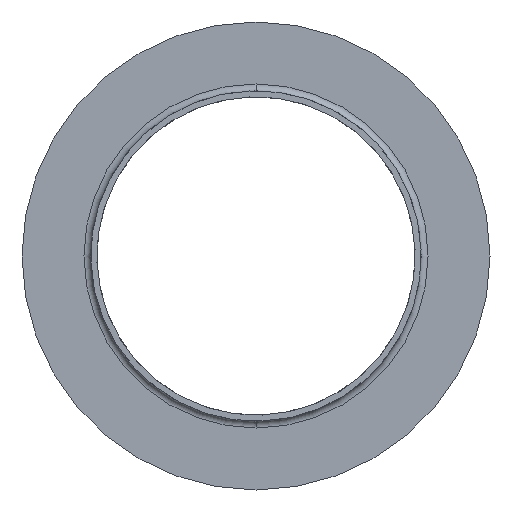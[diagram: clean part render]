
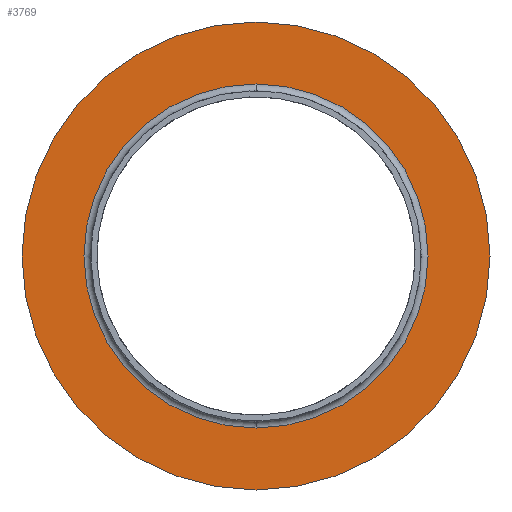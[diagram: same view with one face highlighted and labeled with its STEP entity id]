
A CAD part, front view. The second image highlights one B-rep face of the part: STEP entity #3769.
In plain terms, the highlighted planar face has unit normal (0, -1, 0).
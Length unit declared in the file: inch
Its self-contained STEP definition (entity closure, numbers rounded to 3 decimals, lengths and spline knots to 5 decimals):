
#28 = CARTESIAN_POINT ( 'NONE',  ( 0., 0.29989, 0. ) ) ;
#74 = DIRECTION ( 'NONE',  ( 0., 0., -1. ) ) ;
#90 = DIRECTION ( 'NONE',  ( 0., -1., 0. ) ) ;
#103 = CARTESIAN_POINT ( 'NONE',  ( 0., 0.29989, 0. ) ) ;
#170 = CARTESIAN_POINT ( 'NONE',  ( 0., 0.29989, 0. ) ) ;
#321 = AXIS2_PLACEMENT_3D ( 'NONE', #4336, #3286, #2614 ) ;
#325 = DIRECTION ( 'NONE',  ( 0., 0., -1. ) ) ;
#367 = EDGE_CURVE ( 'NONE', #1905, #4351, #2910, .T. ) ;
#403 = VERTEX_POINT ( 'NONE', #4466 ) ;
#499 = CARTESIAN_POINT ( 'NONE',  ( 0., 0.29989, -3.125 ) ) ;
#741 = CIRCLE ( 'NONE', #3566, 3.125 ) ;
#951 = DIRECTION ( 'NONE',  ( 0., -1., 0. ) ) ;
#985 = DIRECTION ( 'NONE',  ( 0., -1., 0. ) ) ;
#1156 = VERTEX_POINT ( 'NONE', #2509 ) ;
#1314 = EDGE_CURVE ( 'NONE', #1156, #403, #2495, .T. ) ;
#1558 = EDGE_CURVE ( 'NONE', #4351, #1905, #741, .T. ) ;
#1905 = VERTEX_POINT ( 'NONE', #2125 ) ;
#1947 = ORIENTED_EDGE ( 'NONE', *, *, #1558, .F. ) ;
#1988 = ORIENTED_EDGE ( 'NONE', *, *, #1314, .T. ) ;
#2042 = ORIENTED_EDGE ( 'NONE', *, *, #367, .F. ) ;
#2125 = CARTESIAN_POINT ( 'NONE',  ( 0., 0.29989, 3.125 ) ) ;
#2148 = AXIS2_PLACEMENT_3D ( 'NONE', #170, #985, #325 ) ;
#2247 = EDGE_LOOP ( 'NONE', ( #1947, #2042 ) ) ;
#2495 = CIRCLE ( 'NONE', #2939, 4.25 ) ;
#2509 = CARTESIAN_POINT ( 'NONE',  ( 0., 0.29989, 4.25 ) ) ;
#2614 = DIRECTION ( 'NONE',  ( 0., 0., 1. ) ) ;
#2910 = CIRCLE ( 'NONE', #2148, 3.125 ) ;
#2939 = AXIS2_PLACEMENT_3D ( 'NONE', #28, #4402, #4389 ) ;
#2990 = ORIENTED_EDGE ( 'NONE', *, *, #3308, .T. ) ;
#3034 = CARTESIAN_POINT ( 'NONE',  ( 0., 0.29989, 0. ) ) ;
#3068 = FACE_BOUND ( 'NONE', #2247, .T. ) ;
#3209 = AXIS2_PLACEMENT_3D ( 'NONE', #3034, #951, #3385 ) ;
#3281 = CIRCLE ( 'NONE', #3209, 4.25 ) ;
#3286 = DIRECTION ( 'NONE',  ( 0., 1., 0. ) ) ;
#3308 = EDGE_CURVE ( 'NONE', #403, #1156, #3281, .T. ) ;
#3385 = DIRECTION ( 'NONE',  ( 0., 0., -1. ) ) ;
#3566 = AXIS2_PLACEMENT_3D ( 'NONE', #103, #90, #74 ) ;
#3769 = ADVANCED_FACE ( 'NONE', ( #3068, #3884 ), #3992, .F. ) ;
#3871 = EDGE_LOOP ( 'NONE', ( #2990, #1988 ) ) ;
#3884 = FACE_OUTER_BOUND ( 'NONE', #3871, .T. ) ;
#3992 = PLANE ( 'NONE',  #321 ) ;
#4336 = CARTESIAN_POINT ( 'NONE',  ( -4.25, 0.29989, 0. ) ) ;
#4351 = VERTEX_POINT ( 'NONE', #499 ) ;
#4389 = DIRECTION ( 'NONE',  ( 0., 0., -1. ) ) ;
#4402 = DIRECTION ( 'NONE',  ( 0., -1., 0. ) ) ;
#4466 = CARTESIAN_POINT ( 'NONE',  ( 0., 0.29989, -4.25 ) ) ;
